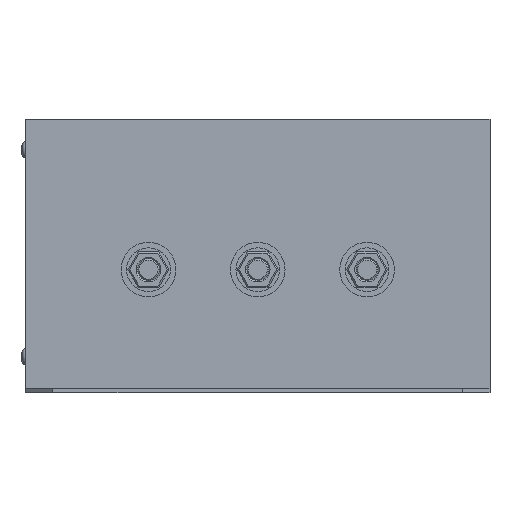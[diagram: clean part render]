
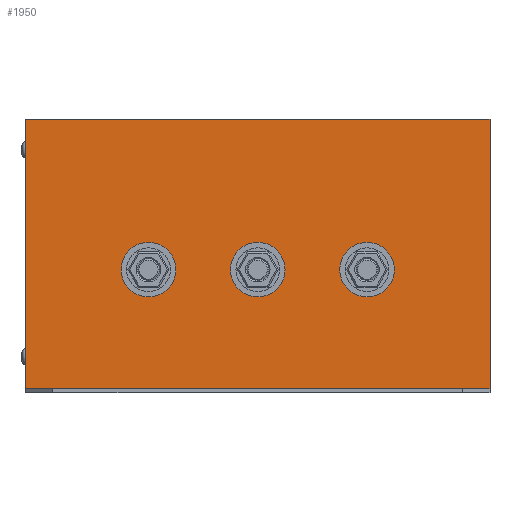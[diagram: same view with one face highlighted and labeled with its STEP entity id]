
A CAD part, left-side view. The second image highlights one B-rep face of the part: STEP entity #1950.
In plain terms, the highlighted planar face has unit normal (-1, 0, 0).
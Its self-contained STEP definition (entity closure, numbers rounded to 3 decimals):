
#1950=ADVANCED_FACE('',(#2462,#2464,#2466,#2468),#2470,.T.);
#2462=FACE_BOUND('',#2463,.T.);
#2463=EDGE_LOOP('',(#3111,#3112,#3113,#3114));
#2464=FACE_BOUND('',#2465,.T.);
#2465=EDGE_LOOP('',(#3115));
#2466=FACE_BOUND('',#2467,.T.);
#2467=EDGE_LOOP('',(#3116));
#2468=FACE_BOUND('',#2469,.T.);
#2469=EDGE_LOOP('',(#3117));
#2470=PLANE('',#2471);
#2471=AXIS2_PLACEMENT_3D('',#2472,#2473,#2474);
#2472=CARTESIAN_POINT('',(-157.5,71.5,1.5));
#2473=DIRECTION('',(-1.,0.,0.));
#2474=DIRECTION('',(0.,-1.,0.));
#3111=ORIENTED_EDGE('',*,*,#3377,.T.);
#3112=ORIENTED_EDGE('',*,*,#3337,.T.);
#3113=ORIENTED_EDGE('',*,*,#3334,.F.);
#3114=ORIENTED_EDGE('',*,*,#3330,.F.);
#3115=ORIENTED_EDGE('',*,*,#3388,.F.);
#3116=ORIENTED_EDGE('',*,*,#3389,.F.);
#3117=ORIENTED_EDGE('',*,*,#3390,.F.);
#3330=EDGE_CURVE('',#3519,#3521,#3522,.T.);
#3334=EDGE_CURVE('',#3521,#3525,#3527,.T.);
#3337=EDGE_CURVE('',#3532,#3525,#3533,.T.);
#3377=EDGE_CURVE('',#3519,#3532,#3598,.T.);
#3388=EDGE_CURVE('',#3618,#3618,#3619,.T.);
#3389=EDGE_CURVE('',#3620,#3620,#3621,.T.);
#3390=EDGE_CURVE('',#3622,#3622,#3623,.T.);
#3519=VERTEX_POINT('',#3863);
#3521=VERTEX_POINT('',#3867);
#3522=LINE('',#3868,#3869);
#3525=VERTEX_POINT('',#3877);
#3527=LINE('',#3881,#3882);
#3532=VERTEX_POINT('',#3892);
#3533=LINE('',#3893,#3894);
#3598=LINE('',#4049,#4050);
#3618=VERTEX_POINT('',#4095);
#3619=CIRCLE('',#4096,4.);
#3620=VERTEX_POINT('',#4100);
#3621=CIRCLE('',#4101,4.);
#3622=VERTEX_POINT('',#4105);
#3623=CIRCLE('',#4106,4.);
#3863=CARTESIAN_POINT('',(-157.5,71.5,1.5));
#3867=CARTESIAN_POINT('',(-157.5,71.5,100.));
#3868=CARTESIAN_POINT('',(-157.5,71.5,1.5));
#3869=VECTOR('',#3870,1.);
#3870=DIRECTION('',(0.,0.,1.));
#3877=CARTESIAN_POINT('',(-157.5,-98.5,100.));
#3881=CARTESIAN_POINT('',(-157.5,71.5,100.));
#3882=VECTOR('',#3883,1.);
#3883=DIRECTION('',(0.,-1.,0.));
#3892=CARTESIAN_POINT('',(-157.5,-98.5,1.5));
#3893=CARTESIAN_POINT('',(-157.5,-98.5,1.5));
#3894=VECTOR('',#3895,1.);
#3895=DIRECTION('',(0.,0.,1.));
#4049=CARTESIAN_POINT('',(-157.5,71.5,1.5));
#4050=VECTOR('',#4051,1.);
#4051=DIRECTION('',(0.,-1.,0.));
#4095=CARTESIAN_POINT('',(-157.5,-49.5,45.));
#4096=AXIS2_PLACEMENT_3D('',#4097,#4098,#4099);
#4097=CARTESIAN_POINT('',(-157.5,-53.5,45.));
#4098=DIRECTION('',(-1.,0.,0.));
#4099=DIRECTION('',(0.,1.,0.));
#4100=CARTESIAN_POINT('',(-157.5,30.5,45.));
#4101=AXIS2_PLACEMENT_3D('',#4102,#4103,#4104);
#4102=CARTESIAN_POINT('',(-157.5,26.5,45.));
#4103=DIRECTION('',(-1.,0.,0.));
#4104=DIRECTION('',(0.,1.,0.));
#4105=CARTESIAN_POINT('',(-157.5,-9.5,45.));
#4106=AXIS2_PLACEMENT_3D('',#4107,#4108,#4109);
#4107=CARTESIAN_POINT('',(-157.5,-13.5,45.));
#4108=DIRECTION('',(-1.,0.,0.));
#4109=DIRECTION('',(0.,1.,0.));
